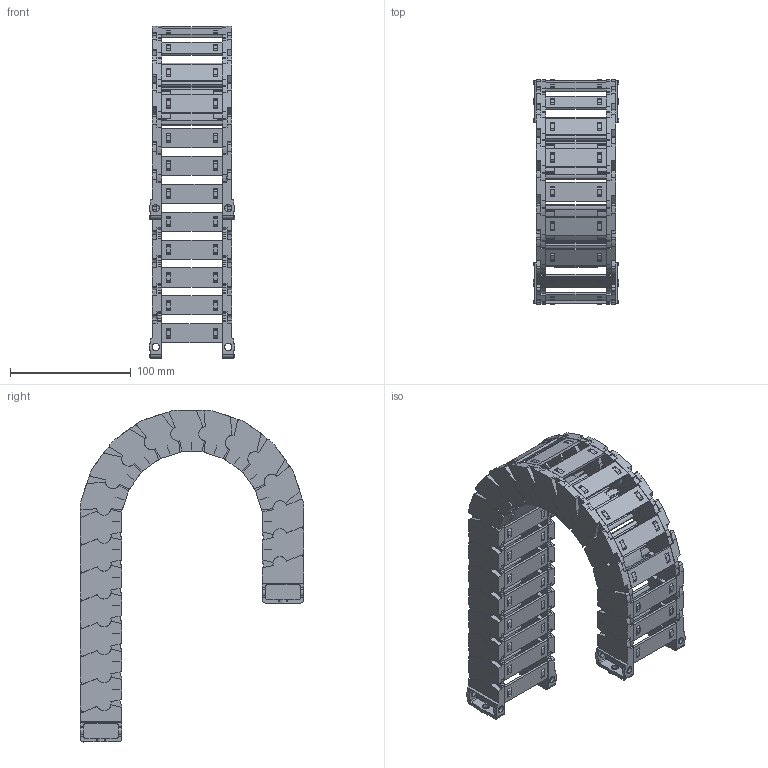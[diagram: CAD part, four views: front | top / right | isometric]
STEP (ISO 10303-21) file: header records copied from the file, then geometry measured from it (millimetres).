
FILE_DESCRIPTION((''),'2;1');
FILE_NAME('JY-25X50-R75_ASM','2022-05-07T10:23:29',('admin'),(''),'CREO PARAMETRIC BY PTC INC, 2021164','CREO PARAMETRIC BY PTC INC, 2021164','');
FILE_SCHEMA(('CONFIG_CONTROL_DESIGN','GEOMETRIC_VALIDATION_PROPERTIES_MIM'));
Length unit declared in the file: millimetre
Products named in the file (11): 25XL-L; 25-35XL-YP; 25XL-R; ASM0001_ASM; 25-LTT-A-L; 25-LTT-A-R; 25XL-LTT-A_ASM; 25-LTT-B-L; 25-LTT-B-R; 25XL-LTT-B_ASM; JY-25X50-R75_ASM
Assembly tree (32 placements, depth 3):
  JY-25X50-R75_ASM
    ASM0001_ASM  x18
      25XL-L
      25-35XL-YP
      25XL-R
    25XL-LTT-A_ASM
      25-LTT-A-L
      25-35XL-YP  x2
      25-LTT-A-R
    25XL-LTT-B_ASM
      25-LTT-B-L
      25-35XL-YP  x2
      25-LTT-B-R
Bounding box: 71.17 x 185.54 x 275.02 mm (x, y, z)
Volume: 324298.9 mm3; surface area: 243490.6 mm2
Topology: 80 solids, 98 shells, 4162 faces, 12432 edges, 8410 vertices
Faces by surface type: plane 3064, cylinder 1062, cone 36
Entity records: 24059 total; most frequent: CARTESIAN_POINT 3120, DIRECTION 3015, ORIENTED_EDGE 2962, EDGE_CURVE 1483, PRESENTATION_STYLE_ASSIGNMENT 1413, STYLED_ITEM 1381, VECTOR 1053, LINE 1053
